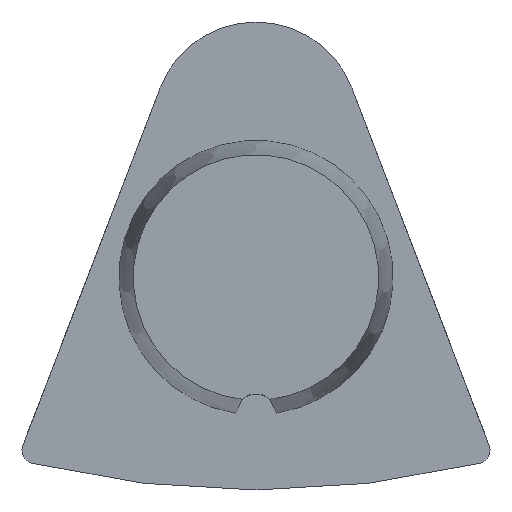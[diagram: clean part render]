
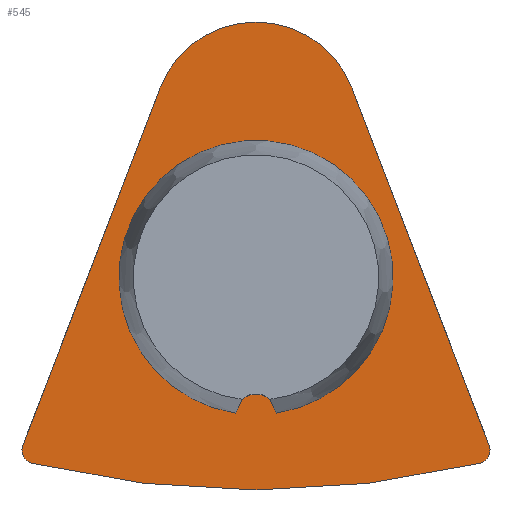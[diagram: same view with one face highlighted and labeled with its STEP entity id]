
A CAD part, front view. The second image highlights one B-rep face of the part: STEP entity #545.
In plain terms, the highlighted planar face has unit normal (0, -1, 0).
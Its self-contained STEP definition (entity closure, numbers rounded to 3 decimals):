
#72=CARTESIAN_POINT('',(0.,0.,0.));
#73=DIRECTION('',(0.,1.,0.));
#74=DIRECTION('',(-0.15,0.,-0.989));
#75=AXIS2_PLACEMENT_3D('',#72,#73,#74);
#87=DIRECTION('',(0.358,0.,-0.934));
#88=VECTOR('',#87,5.58);
#89=CARTESIAN_POINT('',(1.4,0.,2.763));
#90=LINE('',#89,#88);
#94=CARTESIAN_POINT('',(3.213,0.,-2.518));
#95=DIRECTION('',(0.,1.,0.));
#96=DIRECTION('',(0.934,0.,0.358));
#97=AXIS2_PLACEMENT_3D('',#94,#95,#96);
#102=CARTESIAN_POINT('',(0.,0.,10.792));
#103=DIRECTION('',(0.,1.,0.));
#104=DIRECTION('',(0.235,0.,-0.972));
#105=AXIS2_PLACEMENT_3D('',#102,#103,#104);
#110=CARTESIAN_POINT('',(-3.213,0.,-2.518));
#111=DIRECTION('',(0.,1.,0.));
#112=DIRECTION('',(-0.235,0.,-0.972));
#113=AXIS2_PLACEMENT_3D('',#110,#111,#112);
#118=DIRECTION('',(0.358,0.,0.934));
#119=VECTOR('',#118,5.58);
#120=CARTESIAN_POINT('',(-3.4,0.,-2.446));
#121=LINE('',#120,#119);
#125=CARTESIAN_POINT('',(0.,0.,2.226));
#126=DIRECTION('',(0.,1.,0.));
#127=DIRECTION('',(-0.934,0.,0.358));
#128=AXIS2_PLACEMENT_3D('',#125,#126,#127);
#133=CARTESIAN_POINT('',(0.,0.,-2.));
#134=DIRECTION('',(0.,-1.,0.));
#135=DIRECTION('',(0.997,0.,0.075));
#136=AXIS2_PLACEMENT_3D('',#133,#134,#135);
#401=CARTESIAN_POINT('',(1.4,0.,2.763));
#402=CARTESIAN_POINT('',(3.4,0.,-2.446));
#403=VERTEX_POINT('',#401);
#404=VERTEX_POINT('',#402);
#405=CARTESIAN_POINT('',(3.26,0.,-2.712));
#406=CARTESIAN_POINT('',(-3.26,0.,-2.712));
#407=VERTEX_POINT('',#405);
#408=VERTEX_POINT('',#406);
#409=CARTESIAN_POINT('',(-3.4,0.,-2.446));
#410=CARTESIAN_POINT('',(-1.4,0.,2.763));
#411=VERTEX_POINT('',#409);
#412=VERTEX_POINT('',#410);
#427=CARTESIAN_POINT('',(0.299,0.,-1.978));
#428=VERTEX_POINT('',#427);
#431=CARTESIAN_POINT('',(-0.299,0.,-1.978));
#432=VERTEX_POINT('',#431);
#522=CARTESIAN_POINT('',(0.,0.,0.));
#523=DIRECTION('',(0.,1.,0.));
#524=DIRECTION('',(-1.,0.,0.));
#525=AXIS2_PLACEMENT_3D('',#522,#523,#524);
#526=PLANE('',#525);
#528=ORIENTED_EDGE('',*,*,#527,.T.);
#530=ORIENTED_EDGE('',*,*,#529,.T.);
#532=ORIENTED_EDGE('',*,*,#531,.T.);
#534=ORIENTED_EDGE('',*,*,#533,.T.);
#536=ORIENTED_EDGE('',*,*,#535,.T.);
#538=ORIENTED_EDGE('',*,*,#537,.T.);
#539=EDGE_LOOP('',(#528,#530,#532,#534,#536,#538));
#540=FACE_OUTER_BOUND('',#539,.F.);
#541=ORIENTED_EDGE('',*,*,#516,.F.);
#542=ORIENTED_EDGE('',*,*,#500,.F.);
#543=EDGE_LOOP('',(#541,#542));
#544=FACE_BOUND('',#543,.F.);
#545=ADVANCED_FACE('',(#540,#544),#526,.F.);
#76=CIRCLE('',#75,2.);
#98=CIRCLE('',#97,0.2);
#106=CIRCLE('',#105,13.892);
#114=CIRCLE('',#113,0.2);
#129=CIRCLE('',#128,1.5);
#137=CIRCLE('',#136,0.3);
#500=EDGE_CURVE('',#428,#432,#137,.T.);
#516=EDGE_CURVE('',#432,#428,#76,.T.);
#527=EDGE_CURVE('',#403,#404,#90,.T.);
#529=EDGE_CURVE('',#404,#407,#98,.T.);
#531=EDGE_CURVE('',#407,#408,#106,.T.);
#533=EDGE_CURVE('',#408,#411,#114,.T.);
#535=EDGE_CURVE('',#411,#412,#121,.T.);
#537=EDGE_CURVE('',#412,#403,#129,.T.);
